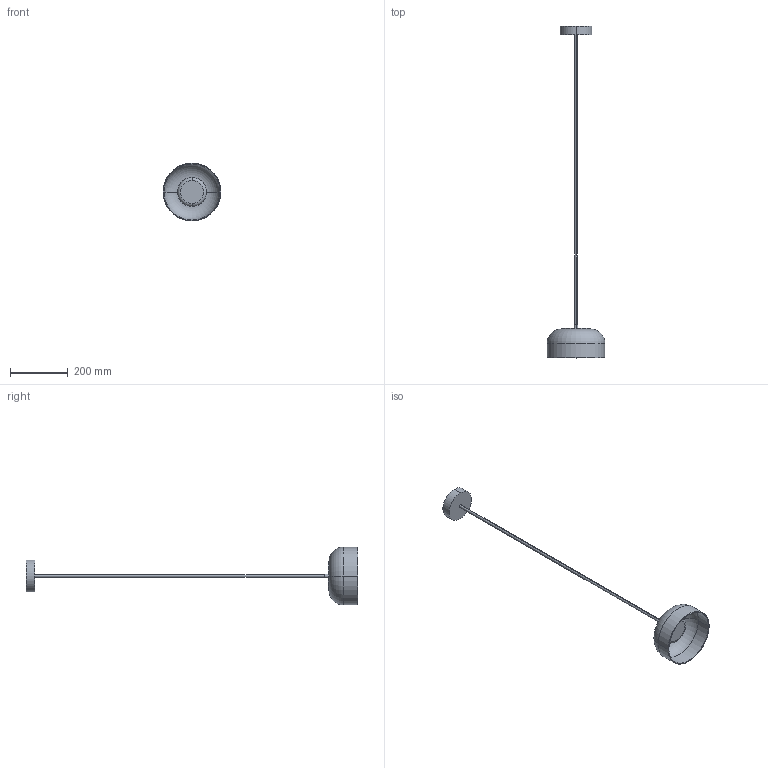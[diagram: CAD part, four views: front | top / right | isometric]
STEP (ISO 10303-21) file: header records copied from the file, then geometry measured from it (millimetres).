
FILE_DESCRIPTION (( 'STEP AP214' ), '1' );
FILE_NAME ('IPON_CU1316-1.STEP', '2026-06-04T13:29:30', ( '' ), ( '' ), 'SwSTEP 2.0', 'SolidWorks 2023', '' );
FILE_SCHEMA (( 'AUTOMOTIVE_DESIGN' ));
Length unit declared in the file: inch
Products named in the file (1): IPON_CU1316-1
Bounding box: 200 x 1147 x 200 mm (x, y, z)
Volume: 897059.8 mm3; surface area: 290993.7 mm2
Topology: 5 solids, 5 shells, 41 faces, 72 edges, 44 vertices
Faces by surface type: cylinder 18, plane 13, torus 10
Entity records: 1075 total; most frequent: DIRECTION 210, CARTESIAN_POINT 158, ORIENTED_EDGE 144, AXIS2_PLACEMENT_3D 96, EDGE_CURVE 72, CIRCLE 54, VERTEX_POINT 44, EDGE_LOOP 44
